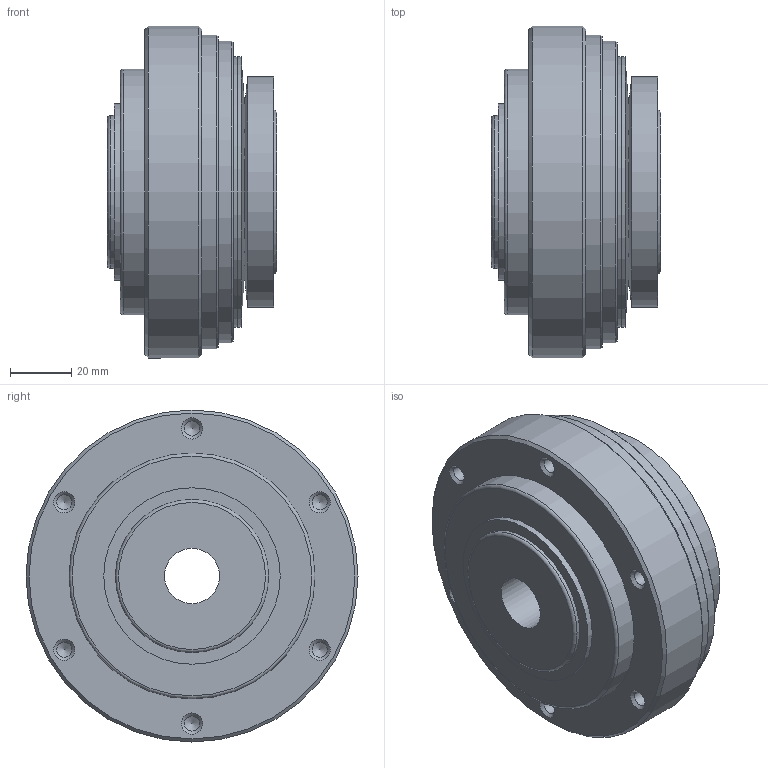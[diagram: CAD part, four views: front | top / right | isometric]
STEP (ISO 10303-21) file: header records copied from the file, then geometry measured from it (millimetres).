
FILE_DESCRIPTION(/* description */ ('Unknown'),/* implementation_level */ '2;1');
FILE_NAME(/* name */ 'SKVA-N 150',/* time_stamp */ '2025-02-05T11:37:23+01:00',/* author */ ('Unknown'),/* organization */ ('Unknown'),/* preprocessor_version */ 'ST-DEVELOPER v18.102',/* originating_system */ 'Solid Edge',/* authorisation */ 'Unknown');
FILE_SCHEMA (('AUTOMOTIVE_DESIGN {1 0 10303 214 3 1 1}'));
Length unit declared in the file: millimetre
Products named in the file (1): SKVA-N 150
Bounding box: 55 x 108 x 108 mm (x, y, z)
Volume: 346443.5 mm3; surface area: 40400.7 mm2
Topology: 1 solids, 1 shells, 54 faces, 116 edges, 72 vertices
Faces by surface type: cone 23, cylinder 19, plane 10, torus 2
Full cylindrical faces by diameter (mm): 4.917 x12, 18 x1, 49.8 x1, 57.4 x1, 75 x1, 98 x1, 102 x1, 108 x1
Entity records: 1514 total; most frequent: DIRECTION 218, CARTESIAN_POINT 169, FACE_BOUND 114, AXIS2_PLACEMENT_3D 109, ORIENTED_EDGE 108, EDGE_LOOP 108, VERTEX_POINT 60, EDGE_CURVE 54
